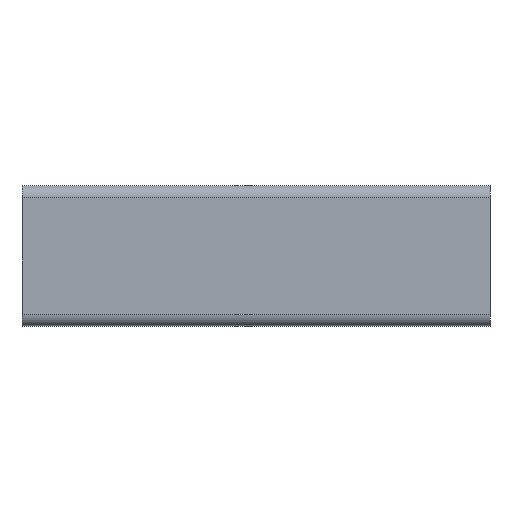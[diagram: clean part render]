
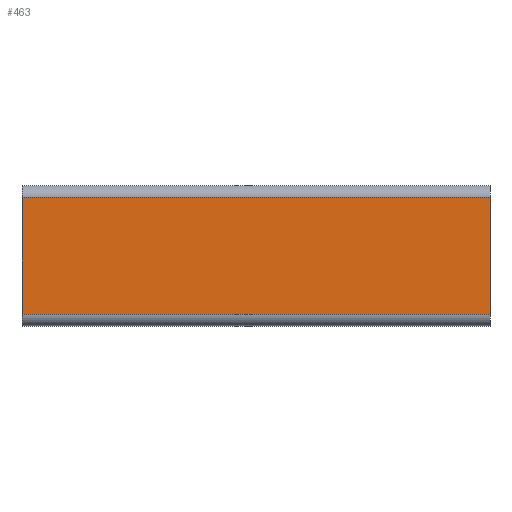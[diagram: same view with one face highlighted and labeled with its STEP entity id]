
A CAD part, top view. The second image highlights one B-rep face of the part: STEP entity #463.
In plain terms, the highlighted planar face has unit normal (0, 0, 1).
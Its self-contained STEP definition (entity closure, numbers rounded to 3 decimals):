
#15 = CARTESIAN_POINT ( 'NONE',  ( 50., 11.917, 0. ) ) ;
#29 = VERTEX_POINT ( 'NONE', #203 ) ;
#39 = VECTOR ( 'NONE', #357, 1000. ) ;
#74 = LINE ( 'NONE', #156, #1037 ) ;
#156 = CARTESIAN_POINT ( 'NONE',  ( 50., -13.083, 0. ) ) ;
#203 = CARTESIAN_POINT ( 'NONE',  ( -50., 11.917, 0. ) ) ;
#227 = ORIENTED_EDGE ( 'NONE', *, *, #1077, .F. ) ;
#261 = CARTESIAN_POINT ( 'NONE',  ( -50., 11.917, 0. ) ) ;
#267 = DIRECTION ( 'NONE',  ( 0., 0., -1. ) ) ;
#325 = EDGE_CURVE ( 'NONE', #29, #1249, #399, .T. ) ;
#331 = CARTESIAN_POINT ( 'NONE',  ( 50., 11.917, 0. ) ) ;
#357 = DIRECTION ( 'NONE',  ( 0., -1., 0. ) ) ;
#369 = PLANE ( 'NONE',  #979 ) ;
#399 = LINE ( 'NONE', #261, #39 ) ;
#404 = LINE ( 'NONE', #15, #898 ) ;
#406 = CARTESIAN_POINT ( 'NONE',  ( -50., -13.083, 0. ) ) ;
#428 = DIRECTION ( 'NONE',  ( 0., -1., 0. ) ) ;
#463 = ADVANCED_FACE ( 'NONE', ( #572 ), #369, .F. ) ;
#468 = CARTESIAN_POINT ( 'NONE',  ( 50., 11.917, 0. ) ) ;
#475 = VECTOR ( 'NONE', #428, 1000. ) ;
#492 = EDGE_LOOP ( 'NONE', ( #836, #227, #686, #1057 ) ) ;
#494 = VERTEX_POINT ( 'NONE', #1239 ) ;
#572 = FACE_OUTER_BOUND ( 'NONE', #492, .T. ) ;
#686 = ORIENTED_EDGE ( 'NONE', *, *, #1006, .F. ) ;
#753 = DIRECTION ( 'NONE',  ( -1., 0., 0. ) ) ;
#804 = VERTEX_POINT ( 'NONE', #1159 ) ;
#811 = EDGE_CURVE ( 'NONE', #804, #29, #404, .T. ) ;
#836 = ORIENTED_EDGE ( 'NONE', *, *, #325, .T. ) ;
#898 = VECTOR ( 'NONE', #1172, 1000. ) ;
#953 = DIRECTION ( 'NONE',  ( -1., 0., 0. ) ) ;
#979 = AXIS2_PLACEMENT_3D ( 'NONE', #468, #267, #953 ) ;
#1006 = EDGE_CURVE ( 'NONE', #804, #494, #1225, .T. ) ;
#1037 = VECTOR ( 'NONE', #753, 1000. ) ;
#1057 = ORIENTED_EDGE ( 'NONE', *, *, #811, .T. ) ;
#1077 = EDGE_CURVE ( 'NONE', #494, #1249, #74, .T. ) ;
#1159 = CARTESIAN_POINT ( 'NONE',  ( 50., 11.917, 0. ) ) ;
#1172 = DIRECTION ( 'NONE',  ( -1., 0., 0. ) ) ;
#1225 = LINE ( 'NONE', #331, #475 ) ;
#1239 = CARTESIAN_POINT ( 'NONE',  ( 50., -13.083, 0. ) ) ;
#1249 = VERTEX_POINT ( 'NONE', #406 ) ;
